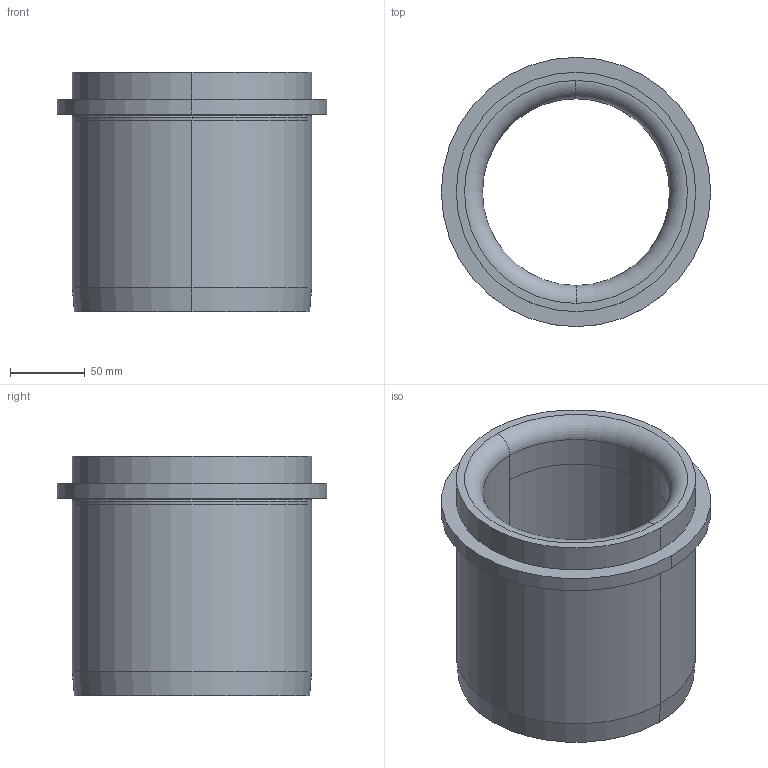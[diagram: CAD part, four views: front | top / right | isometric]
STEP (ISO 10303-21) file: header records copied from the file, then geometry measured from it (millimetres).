
FILE_DESCRIPTION(('CATIA V5 STEP'),'2;1');
FILE_NAME('\\GSBFILE\data\URETIM\3D DATALAR\Step Dosyaları\Kılavuz Elemanları\G211-02-125-160.stp','2020-07-07T05:49:36+00:00',('none'),('none'),'CATIA Version 5-6 Release 2019 SP3','CATIA V5 STEP AP203 v1','none');
FILE_SCHEMA(('CONFIG_CONTROL_DESIGN'));
Length unit declared in the file: millimetre
Products named in the file (1): Part1
Bounding box: 180 x 180 x 160 mm (x, y, z)
Volume: 1288210.3 mm3; surface area: 167576 mm2
Topology: 1 solids, 1 shells, 32 faces, 67 edges, 39 vertices
Faces by surface type: cylinder 14, torus 8, cone 6, plane 4
Entity records: 864 total; most frequent: CARTESIAN_POINT 189, ORIENTED_EDGE 134, DIRECTION 108, EDGE_CURVE 67, AXIS2_PLACEMENT_3D 65, CIRCLE 42, VERTEX_POINT 39, EDGE_LOOP 36
